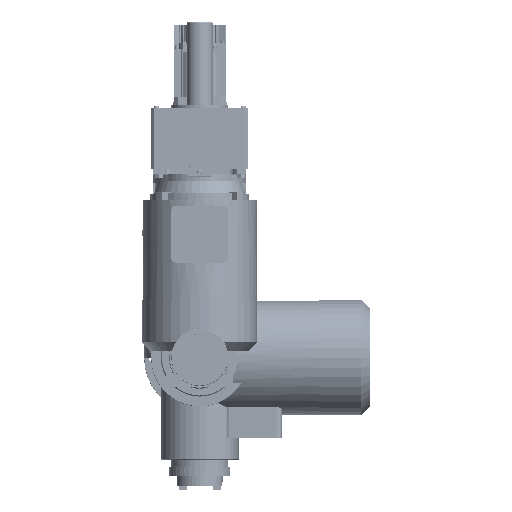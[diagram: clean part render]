
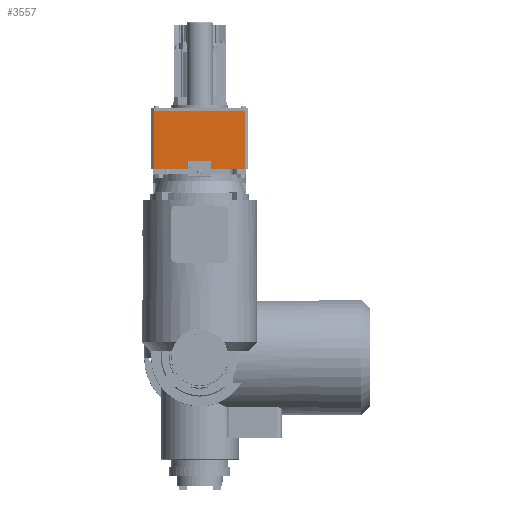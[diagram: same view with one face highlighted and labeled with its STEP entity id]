
A CAD part, top view. The second image highlights one B-rep face of the part: STEP entity #3557.
In plain terms, the highlighted planar face has unit normal (0, 0, 1) as drawn and (0, 1, 0) by its records, which use the part's own axes.
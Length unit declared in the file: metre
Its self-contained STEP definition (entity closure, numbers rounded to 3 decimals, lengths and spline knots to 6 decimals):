
#3557 = ADVANCED_FACE( '', ( #5983 ), #5984, .T. );
#5983 = FACE_OUTER_BOUND( '', #9292, .T. );
#5984 = PLANE( '', #9293 );
#9292 = EDGE_LOOP( '', ( #17003, #17004, #17005, #17006 ) );
#9293 = AXIS2_PLACEMENT_3D( '', #17007, #17008, #17009 );
#17003 = ORIENTED_EDGE( '', *, *, #22658, .T. );
#17004 = ORIENTED_EDGE( '', *, *, #22659, .T. );
#17005 = ORIENTED_EDGE( '', *, *, #22657, .T. );
#17006 = ORIENTED_EDGE( '', *, *, #22660, .T. );
#17007 = CARTESIAN_POINT( '', ( -0.09, 0.352, -0.4043 ) );
#17008 = DIRECTION( '', ( 0., 1., 0. ) );
#17009 = DIRECTION( '', ( 1., 0., 0. ) );
#22657 = EDGE_CURVE( '', #26557, #26611, #26614, .T. );
#22658 = EDGE_CURVE( '', #26580, #26615, #26616, .T. );
#22659 = EDGE_CURVE( '', #26615, #26557, #26617, .T. );
#22660 = EDGE_CURVE( '', #26611, #26580, #26618, .T. );
#26557 = VERTEX_POINT( '', #33017 );
#26580 = VERTEX_POINT( '', #33053 );
#26611 = VERTEX_POINT( '', #33104 );
#26614 = LINE( '', #33109, #33110 );
#26615 = VERTEX_POINT( '', #33111 );
#26616 = LINE( '', #33112, #33113 );
#26617 = LINE( '', #33114, #33115 );
#26618 = LINE( '', #33116, #33117 );
#33017 = CARTESIAN_POINT( '', ( -0.088, 0.352, -0.4048 ) );
#33053 = CARTESIAN_POINT( '', ( 0.088, 0.352, -0.5168 ) );
#33104 = CARTESIAN_POINT( '', ( 0.088, 0.352, -0.4048 ) );
#33109 = CARTESIAN_POINT( '', ( -0.045, 0.352, -0.4048 ) );
#33110 = VECTOR( '', #39353, 1. );
#33111 = CARTESIAN_POINT( '', ( -0.088, 0.352, -0.5168 ) );
#33112 = CARTESIAN_POINT( '', ( -0.045, 0.352, -0.5168 ) );
#33113 = VECTOR( '', #39354, 1. );
#33114 = CARTESIAN_POINT( '', ( -0.088, 0.352, -0.4043 ) );
#33115 = VECTOR( '', #39355, 1. );
#33116 = CARTESIAN_POINT( '', ( 0.088, 0.352, -0.4043 ) );
#33117 = VECTOR( '', #39356, 1. );
#39353 = DIRECTION( '', ( 1., 0., 0. ) );
#39354 = DIRECTION( '', ( -1., 0., 0. ) );
#39355 = DIRECTION( '', ( 0., 0., 1. ) );
#39356 = DIRECTION( '', ( 0., 0., -1. ) );
